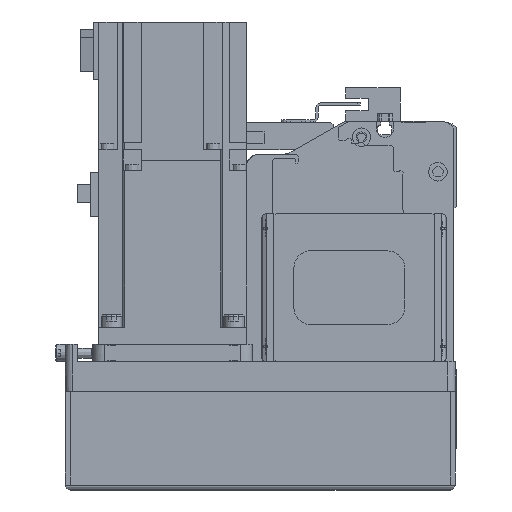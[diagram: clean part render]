
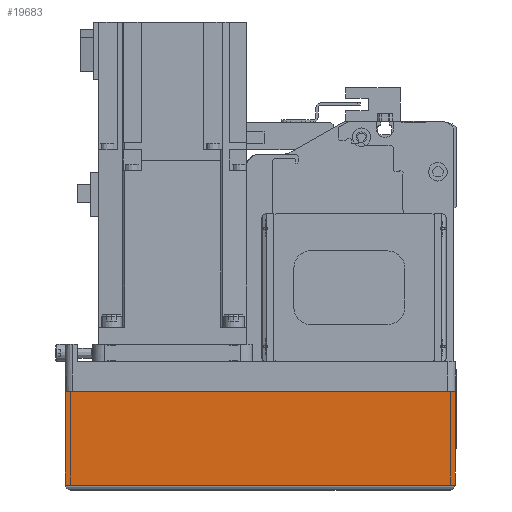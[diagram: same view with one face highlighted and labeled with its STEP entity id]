
A CAD part, left-side view. The second image highlights one B-rep face of the part: STEP entity #19683.
In plain terms, the highlighted planar face has unit normal (-1, 0, 0) as drawn and (0, -1, 0) by its records, which use the part's own axes.
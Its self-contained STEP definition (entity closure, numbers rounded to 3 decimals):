
#3024=ORIENTED_EDGE('',*,*,#7879,.F.);
#3025=ORIENTED_EDGE('',*,*,#7861,.F.);
#3026=ORIENTED_EDGE('',*,*,#7896,.T.);
#3027=ORIENTED_EDGE('',*,*,#7951,.T.);
#7861=EDGE_CURVE('',#10479,#10480,#12493,.T.);
#7879=EDGE_CURVE('',#10480,#10496,#12511,.T.);
#7896=EDGE_CURVE('',#10479,#10506,#12524,.T.);
#7951=EDGE_CURVE('',#10506,#10496,#12552,.T.);
#10479=VERTEX_POINT('',#30128);
#10480=VERTEX_POINT('',#30129);
#10496=VERTEX_POINT('',#30166);
#10506=VERTEX_POINT('',#30196);
#12493=LINE('',#30127,#14213);
#12511=LINE('',#30165,#14231);
#12524=LINE('',#30197,#14244);
#12552=LINE('',#30295,#14272);
#14213=VECTOR('',#24107,1000.);
#14231=VECTOR('',#24131,1000.);
#14244=VECTOR('',#24160,1000.);
#14272=VECTOR('',#24288,1000.);
#15821=EDGE_LOOP('',(#3024,#3025,#3026,#3027));
#17441=FACE_BOUND('',#15821,.T.);
#18888=PLANE('',#21112);
#19683=ADVANCED_FACE('',(#17441),#18888,.T.);
#21112=AXIS2_PLACEMENT_3D('',#30296,#24289,#24290);
#24107=DIRECTION('',(1.,0.,0.));
#24131=DIRECTION('',(0.,0.,-1.));
#24160=DIRECTION('',(0.,0.,-1.));
#24288=DIRECTION('',(1.,0.,0.));
#24289=DIRECTION('',(0.,-1.,0.));
#24290=DIRECTION('',(0.,0.,-1.));
#30127=CARTESIAN_POINT('',(-158.,-39.,-12.1));
#30128=CARTESIAN_POINT('',(-158.,-39.,-12.1));
#30129=CARTESIAN_POINT('',(0.,-39.,-12.1));
#30165=CARTESIAN_POINT('',(0.,-39.,-12.1));
#30166=CARTESIAN_POINT('',(0.,-39.,-50.));
#30196=CARTESIAN_POINT('',(-158.,-39.,-50.));
#30197=CARTESIAN_POINT('',(-158.,-39.,-12.1));
#30295=CARTESIAN_POINT('',(-158.,-39.,-50.));
#30296=CARTESIAN_POINT('',(-158.,-39.,-12.1));
